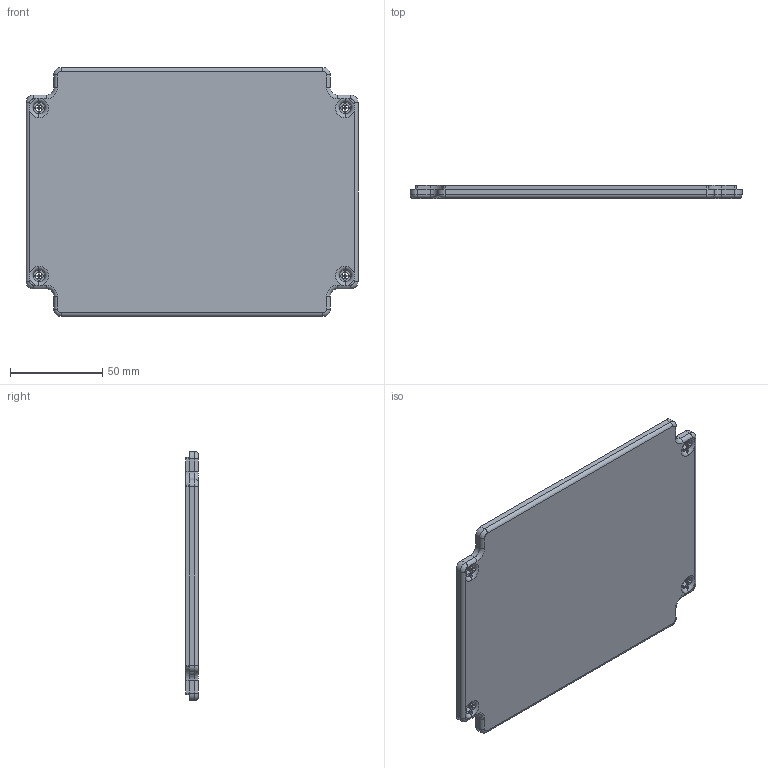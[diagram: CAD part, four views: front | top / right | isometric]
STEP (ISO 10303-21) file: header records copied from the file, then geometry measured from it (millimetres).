
FILE_DESCRIPTION (( 'STEP AP203' ), '1' );
FILE_NAME ('Mid Box Starter Lid.STEP', '2018-02-21T22:31:59', ( '' ), ( '' ), 'SwSTEP 2.0', 'SolidWorks 2015', '' );
FILE_SCHEMA (( 'CONFIG_CONTROL_DESIGN' ));
Length unit declared in the file: inch
Products named in the file (1): Mid Box Starter Lid
Bounding box: 180 x 7 x 135 mm (x, y, z)
Volume: 119447.6 mm3; surface area: 52234 mm2
Topology: 5 solids, 5 shells, 236 faces, 592 edges, 368 vertices
Faces by surface type: plane 156, cylinder 60, torus 20
Entity records: 7108 total; most frequent: CARTESIAN_POINT 1294, DIRECTION 1206, ORIENTED_EDGE 1184, EDGE_CURVE 592, VECTOR 428, LINE 428, AXIS2_PLACEMENT_3D 389, VERTEX_POINT 368
